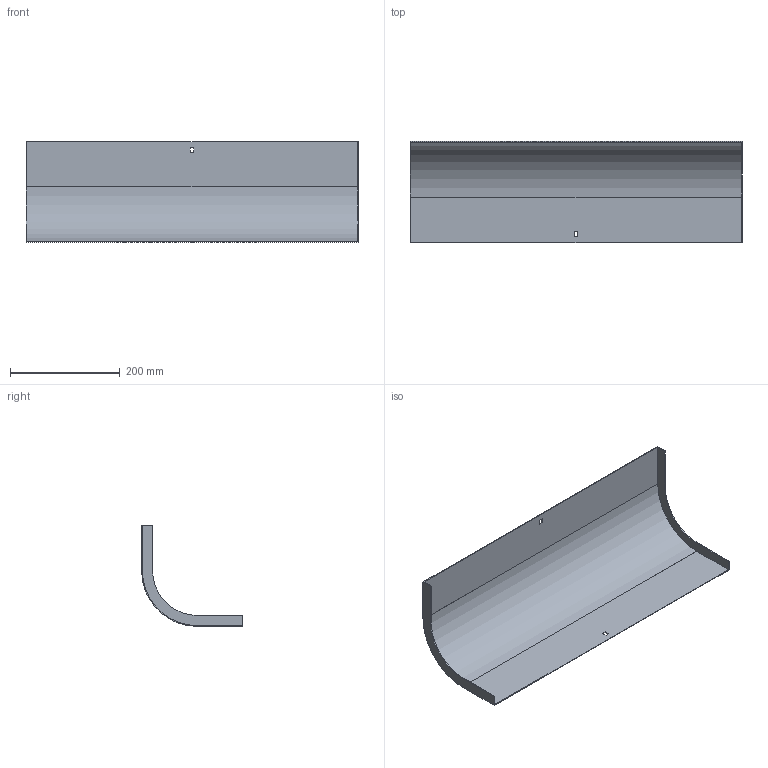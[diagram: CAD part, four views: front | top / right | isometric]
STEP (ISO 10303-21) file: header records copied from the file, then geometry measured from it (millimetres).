
FILE_DESCRIPTION (( 'STEP AP214' ), '1' );
FILE_NAME ('33G1B600.step', '2025-02-21T12:44:36', ( '' ), ( '' ), 'SwSTEP 2.0', 'SolidWorks 2023', '' );
FILE_SCHEMA (( 'AUTOMOTIVE_DESIGN' ));
Length unit declared in the file: millimetre
Products named in the file (1): 33G1B600
Bounding box: 604 x 183.5 x 183.5 mm (x, y, z)
Volume: 308803.5 mm3; surface area: 414633.6 mm2
Topology: 1 solids, 1 shells, 26 faces, 72 edges, 48 vertices
Faces by surface type: plane 22, cylinder 4
Entity records: 855 total; most frequent: CARTESIAN_POINT 147, ORIENTED_EDGE 144, DIRECTION 134, EDGE_CURVE 72, VECTOR 64, LINE 64, VERTEX_POINT 48, AXIS2_PLACEMENT_3D 35
